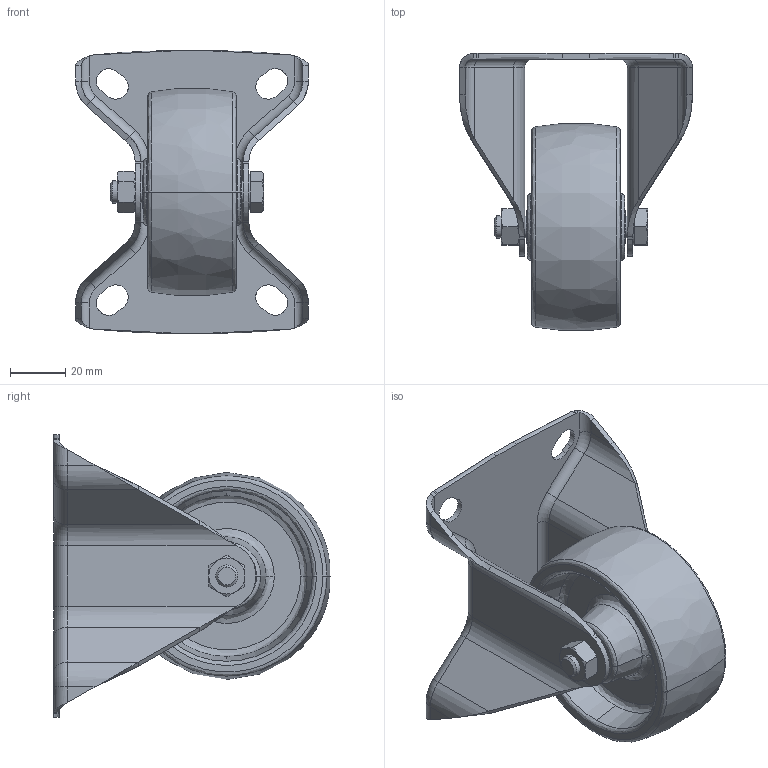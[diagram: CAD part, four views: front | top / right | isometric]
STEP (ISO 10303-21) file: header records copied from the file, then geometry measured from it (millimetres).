
FILE_DESCRIPTION (( 'STEP AP203' ), '1' );
FILE_NAME ('22678_BOC75MPLAS.STEP', '2018-03-23T12:16:17', ( '' ), ( '' ), 'SwSTEP 2.0', 'SolidWorks 2017', '' );
FILE_SCHEMA (( 'CONFIG_CONTROL_DESIGN' ));
Products named in the file (1): 22678_BOC75MPLAS
Bounding box: 84 x 99.85 x 102 mm (x, y, z)
Volume: 112104.9 mm3; surface area: 55285.3 mm2
Topology: 3 solids, 3 shells, 755 faces, 1954 edges, 1260 vertices
Faces by surface type: plane 385, bspline 268, cylinder 48, cone 38, torus 16
Entity records: 40651 total; most frequent: CARTESIAN_POINT 23952, ORIENTED_EDGE 3908, DIRECTION 2540, EDGE_CURVE 1954, VERTEX_POINT 1260, VECTOR 1232, LINE 1232, EDGE_LOOP 820
